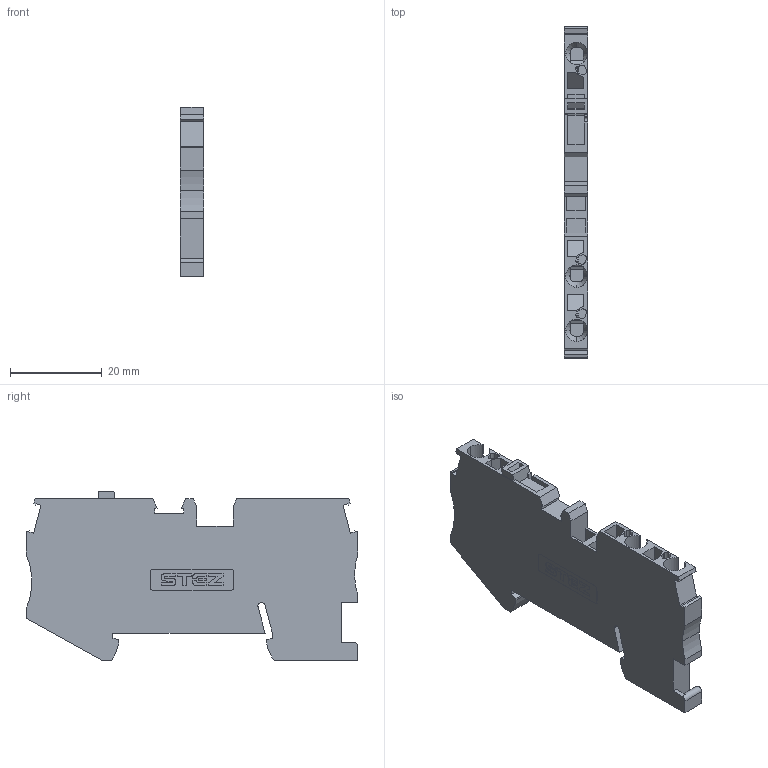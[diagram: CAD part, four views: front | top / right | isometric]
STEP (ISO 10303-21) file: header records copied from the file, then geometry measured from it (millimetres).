
FILE_DESCRIPTION(('TFLEX Exchange Step'),'2;1');
FILE_NAME('10200012_КНЗ_2,5-3-РЗМ.stp', '2024-03-11T14:47:58+03:00',('apanin'),('Unknown organisation'),'TFLEX Exchange 2023.2','T-FLEX CAD','Unknown authorisation');
FILE_SCHEMA( ('AUTOMOTIVE_DESIGN { 1 0 10303 214 1 1 1 1 }') );
Length unit declared in the file: millimetre
Products named in the file (1): Тело_1 - ST_25_TWIN_MT-select:1
Bounding box: 5.15 x 72.2 x 36.85 mm (x, y, z)
Volume: 9516.1 mm3; surface area: 7117 mm2
Topology: 1 solids, 1 shells, 467 faces, 1330 edges, 879 vertices
Faces by surface type: plane 241, cylinder 208, cone 18
Entity records: 15927 total; most frequent: CARTESIAN_POINT 3394, ORIENTED_EDGE 2660, DIRECTION 2617, EDGE_CURVE 1330, VERTEX_POINT 879, AXIS2_PLACEMENT_3D 878, VECTOR 861, LINE 861
